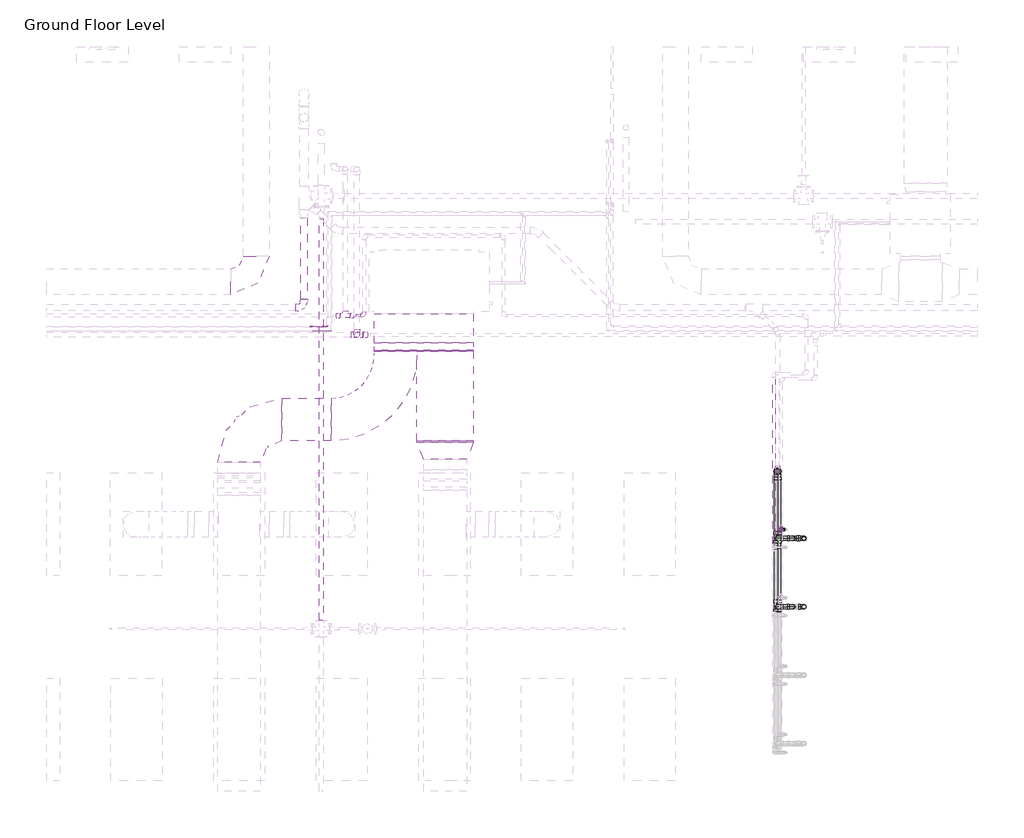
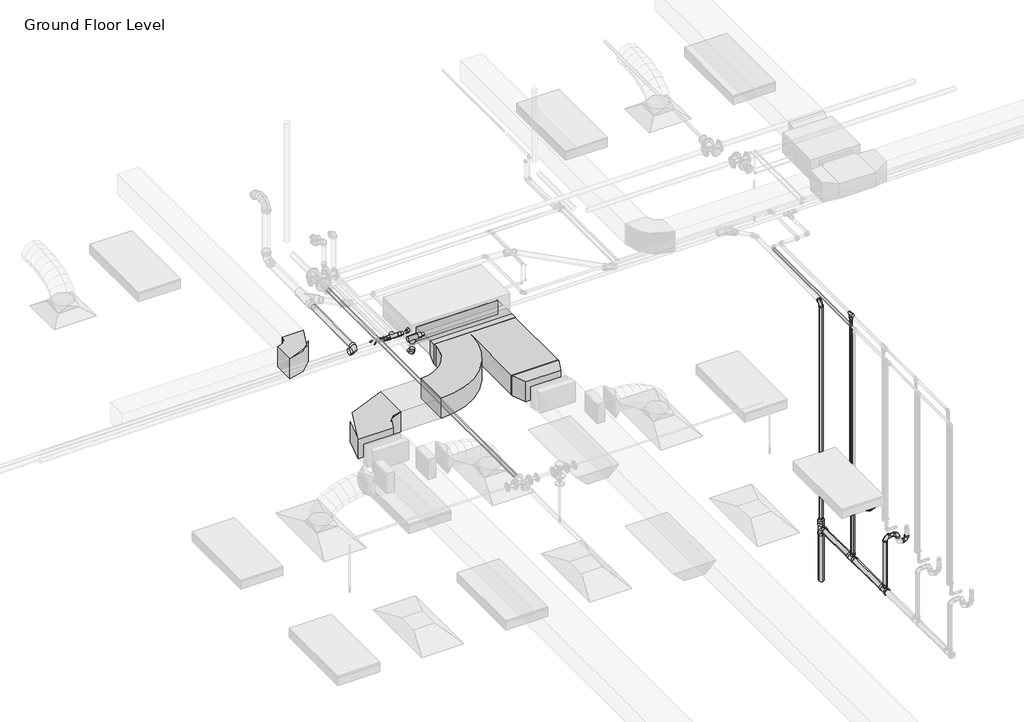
# One storey, part 51 of 74: 32 pipe fittings, 27 pipe segments, 6 duct fittings, 4 duct segments.
"""IFC4 building model written with IfcOpenShell, lengths in millimetres."""

from ifc_helpers import new_model, si_unit, point, frame, frame_2d, origin, place, context, project, spatial, polyline, circle_curve, trimmed, segment, composite_curve, outline, extrude, transform, mapped, element, save
from components import m_rectangular_elbow_radius_1_w_618da153, m_rectangular_elbow_radius_1_w_abe20169, m_rectangular_transition_angle_45_degree_0ac038db, m_rectangular_transition_angle_45_degree_2e6f116c, m_rectangular_transition_angle_45_degree_bb273bf1, m_rectangular_wye_smooth_radius_standard_737174da, m_bend_pvc_sch_40_dwv_standard_1e7bdcc1, m_bend_pvc_sch_40_dwv_standard_738aab8b, m_bend_pvc_sch_40_dwv_standard_33e831c1, m_elbow_generic_standard_a088f956, m_elbow_generic_standard_2a704253, m_elbow_generic_standard_65e6739a, m_reducer_pvc_sch_40_dwv_standard_d6f2da47, m_tee_reducing_sanitary_pvc_sch_40_dwv_standard_21d2848c, m_tee_reducing_sanitary_pvc_sch_40_dwv_standard_b574f8c1, standard_b266ab3f, standard_517a5a8d, standard_72b35c3b, standard_cd25fed3, standard_5079833c, standard_bbae78af, standard_a995ec02, standard_e5aa6446, standard_57727813, standard_77f9104c

model = new_model("IFC4")

# Units and contexts
model_context = context("Model", 3, world=origin())
ifc_project = project(units=[si_unit("LENGTHUNIT", "METRE", prefix="MILLI")], contexts=[model_context])

# Site, building, storey
site = spatial("IfcSite", under=ifc_project)
building = spatial("IfcBuilding", under=site)
storey = spatial("IfcBuildingStorey", under=building, Name="Ground Floor Level", Elevation=900.0)

# Duct fittings
placement = place(None, origin())
m_rectangular_elbow_radius_1_w_shape = m_rectangular_elbow_radius_1_w_618da153(model_context)
element("IfcDuctFitting", 1, ObjectType="M_Rectangular Elbow - Radius : 1 W", at=placement, inside=storey, context=model_context, shape_type="MappedRepresentation", body=[
    mapped(m_rectangular_elbow_radius_1_w_shape, transform((-6737.2327605, 14069.8153534, 4075.2872564), x_axis=(1.0, 0.0, 0.0), y_axis=(0.0, 1.0, 0.0), z_axis=(0.0, 0.0, 1.0))),
])
m_rectangular_elbow_radius_1_w_2_shape = m_rectangular_elbow_radius_1_w_abe20169(model_context)
element("IfcDuctFitting", 2, ObjectType="M_Rectangular Elbow - Radius : 1 W", at=placement, inside=storey, context=model_context, shape_type="MappedRepresentation", body=[
    mapped(m_rectangular_elbow_radius_1_w_2_shape, transform((-6939.6912607, 12459.4153535, 4107.1399598), x_axis=(-0.9999999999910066, 0.0, 4.2410714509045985e-06), y_axis=(0.0, -1.0, 0.0), z_axis=(4.2410714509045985e-06, 0.0, 0.9999999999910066))),
])
m_rectangular_transition_angle_45_degree_shape = m_rectangular_transition_angle_45_degree_0ac038db(model_context)
element("IfcDuctFitting", 3, ObjectType="M_Rectangular Transition - Angle : 45 Degree", at=placement, inside=storey, context=model_context, shape_type="MappedRepresentation", body=[
    mapped(m_rectangular_transition_angle_45_degree_shape, transform((-4528.6910789, 12192.414605, 4107.133239), x_axis=(0.0, -0.9999999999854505, 5.394345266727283e-06), y_axis=(1.0, 0.0, 0.0), z_axis=(0.0, 5.394345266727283e-06, 0.9999999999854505))),
])
m_rectangular_transition_angle_45_degree_2_shape = m_rectangular_transition_angle_45_degree_2e6f116c(model_context)
element("IfcDuctFitting", 4, ObjectType="M_Rectangular Transition - Angle : 45 Degree", at=placement, inside=storey, context=model_context, shape_type="MappedRepresentation", body=[
    mapped(m_rectangular_transition_angle_45_degree_2_shape, transform((-4778.6910789, 13694.4153534, 4150.0050223), x_axis=(0.0, -1.0, 0.0), y_axis=(1.0, 0.0, 0.0), z_axis=(0.0, 0.0, 1.0))),
])
m_rectangular_transition_angle_45_degree_3_shape = m_rectangular_transition_angle_45_degree_bb273bf1(model_context)
element("IfcDuctFitting", 5, ObjectType="M_Rectangular Transition - Angle : 45 Degree", at=placement, inside=storey, context=model_context, shape_type="MappedRepresentation", body=[
    mapped(m_rectangular_transition_angle_45_degree_3_shape, transform((-4778.6910789, 13354.5699657, 4150.0028095), x_axis=(0.0, -0.9999999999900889, -4.452214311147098e-06), y_axis=(1.0, 0.0, 0.0), z_axis=(0.0, -4.452214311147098e-06, 0.9999999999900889))),
])
m_rectangular_wye_smooth_radius_standard_shape = m_rectangular_wye_smooth_radius_standard_737174da(model_context)
element("IfcDuctFitting", 6, ObjectType="M_Rectangular Wye - Smooth Radius : Standard", at=placement, inside=storey, context=model_context, shape_type="MappedRepresentation", body=[
    mapped(m_rectangular_wye_smooth_radius_standard_shape, transform((-4653.6910789, 12459.4153535, 4107.1353795), x_axis=(0.0, -0.9999999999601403, -8.928571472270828e-06), y_axis=(1.0, 0.0, 0.0), z_axis=(0.0, -8.928571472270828e-06, 0.9999999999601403))),
])

# Duct segments
element("IfcDuctSegment", 7, ObjectType="Radius Elbows / Taps", at=placement, inside=storey, context=model_context, shape_type="SweptSolid", body=[
    extrude(outline(polyline([(-4859.6910789, 12209.4153535), (-4197.6910789, 12209.4153535), (-4197.6910789, 12192.414605), (-4859.6910789, 12192.414605), (-4859.6910789, 12209.4153535)])), frame((0.0, 0.0, 3957.1331473), z_axis=(0.0, 0.0, 1.0), x_axis=(1.0, 0.0, 0.0)), (0.0, 0.0, 1.0), 300.0),
])
element("IfcDuctSegment", 8, ObjectType="Radius Elbows / Taps", at=placement, inside=storey, context=model_context, shape_type="SweptSolid", body=[
    extrude(outline(polyline([(-5859.6910789, 12709.4153535), (-5859.6910789, 12209.4153535), (-6439.6912607, 12209.4153535), (-6439.6912607, 12709.4153535), (-5859.6910789, 12709.4153535)])), frame((0.0, 0.0, 3957.1353795), z_axis=(0.0, 0.0, 1.0), x_axis=(1.0, 0.0, 0.0)), (0.0, 0.0, 1.0), 300.0),
])
element("IfcDuctSegment", 9, ObjectType="Radius Elbows / Taps", at=placement, inside=storey, context=model_context, shape_type="SweptSolid", body=[
    extrude(outline(polyline([(-5359.6910789, 13694.083399), (-4197.6910789, 13694.083399), (-4197.6910789, 13354.5699657), (-5359.6910789, 13354.5699657), (-5359.6910789, 13694.083399)])), frame((0.0, 0.0, 4043.0050223), z_axis=(0.0, 0.0, 1.0), x_axis=(1.0, 0.0, 0.0)), (0.0, 0.0, 1.0), 214.0),
])
element("IfcDuctSegment", 10, ObjectType="Radius Elbows / Taps", at=placement, inside=storey, context=model_context, shape_type="SweptSolid", body=[
    extrude(outline(polyline([(0.0, -1162.0), (0.0, 0.0), (9.0109299, 0.0), (9.0109299, -1162.0), (0.0, -1162.0)])), frame((-5359.6910789, 13259.4862791, 3957.1425391), z_axis=(0.0, -0.00047283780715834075, 0.9999998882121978), x_axis=(0.0, 0.9999998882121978, 0.00047283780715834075)), (0.0, 0.0, 1.0), 300.0),
])

# Pipe fittings
m_bend_pvc_sch_40_dwv_standard_shape = m_bend_pvc_sch_40_dwv_standard_1e7bdcc1(model_context)
element("IfcPipeFitting", 11, ObjectType="M_Bend - PVC - Sch 40 - DWV : Standard", at=placement, inside=storey, context=model_context, shape_type="MappedRepresentation", body=[
    mapped(m_bend_pvc_sch_40_dwv_standard_shape, transform((-642.2357232, 11855.5503966, 4093.773994), x_axis=(0.0, 0.0, 1.0), y_axis=(0.0, 1.0, 0.0), z_axis=(-1.0, 0.0, 0.0))),
])
m_bend_pvc_sch_40_dwv_standard_2_shape = m_bend_pvc_sch_40_dwv_standard_738aab8b(model_context)
element("IfcPipeFitting", 12, ObjectType="M_Bend - PVC - Sch 40 - DWV : Standard", at=placement, inside=storey, context=model_context, shape_type="MappedRepresentation", body=[
    mapped(m_bend_pvc_sch_40_dwv_standard_2_shape, transform((-463.6645494, 10271.1979139, 1510.0), x_axis=(0.0, 0.0, 1.0), y_axis=(-1.0, 0.0, 0.0), z_axis=(0.0, -1.0, 0.0))),
])
element("IfcPipeFitting", 13, ObjectType="M_Bend - PVC - Sch 40 - DWV : Standard", at=placement, inside=storey, context=model_context, shape_type="MappedRepresentation", body=[
    mapped(m_bend_pvc_sch_40_dwv_standard_2_shape, transform((-463.6645494, 11071.1979139, 1370.0), x_axis=(-1.0, 0.0, 0.0), y_axis=(0.0, 0.0, 1.0), z_axis=(0.0, 1.0, 0.0))),
])
element("IfcPipeFitting", 14, ObjectType="M_Bend - PVC - Sch 40 - DWV : Standard", at=placement, inside=storey, context=model_context, shape_type="MappedRepresentation", body=[
    mapped(m_bend_pvc_sch_40_dwv_standard_2_shape, transform((-463.6645494, 11071.1979139, 1510.0), x_axis=(0.0, 0.0, 1.0), y_axis=(-1.0, 0.0, 0.0), z_axis=(0.0, -1.0, 0.0))),
])
element("IfcPipeFitting", 15, ObjectType="M_Bend - PVC - Sch 40 - DWV : Standard", at=placement, inside=storey, context=model_context, shape_type="MappedRepresentation", body=[
    mapped(m_bend_pvc_sch_40_dwv_standard_2_shape, transform((-333.6645494, 10271.1979139, 1370.0), x_axis=(1.0, 0.0, 0.0), y_axis=(0.0, 0.0, 1.0), z_axis=(0.0, -1.0, 0.0))),
])
element("IfcPipeFitting", 16, ObjectType="M_Bend - PVC - Sch 40 - DWV : Standard", at=placement, inside=storey, context=model_context, shape_type="MappedRepresentation", body=[
    mapped(m_bend_pvc_sch_40_dwv_standard_2_shape, transform((-333.6645494, 11071.1979139, 1370.0), x_axis=(1.0, 0.0, 0.0), y_axis=(0.0, 0.0, 1.0), z_axis=(0.0, -1.0, 0.0))),
])
element("IfcPipeFitting", 17, ObjectType="M_Bend - PVC - Sch 40 - DWV : Standard", at=placement, inside=storey, context=model_context, shape_type="MappedRepresentation", body=[
    mapped(m_bend_pvc_sch_40_dwv_standard_2_shape, transform((-642.2301761, 10271.1979139, 1510.0), x_axis=(-1.0, 0.0, 0.0), y_axis=(0.0, 0.0, -1.0), z_axis=(0.0, -1.0, 0.0))),
])
element("IfcPipeFitting", 18, ObjectType="M_Bend - PVC - Sch 40 - DWV : Standard", at=placement, inside=storey, context=model_context, shape_type="MappedRepresentation", body=[
    mapped(m_bend_pvc_sch_40_dwv_standard_2_shape, transform((-642.2301761, 11071.1979139, 1510.0), x_axis=(-1.0, 0.0, 0.0), y_axis=(0.0, 0.0, -1.0), z_axis=(0.0, -1.0, 0.0))),
])
m_bend_pvc_sch_40_dwv_standard_3_shape = m_bend_pvc_sch_40_dwv_standard_33e831c1(model_context)
element("IfcPipeFitting", 19, ObjectType="M_Bend - PVC - Sch 40 - DWV : Standard", at=placement, inside=storey, context=model_context, shape_type="MappedRepresentation", body=[
    mapped(m_bend_pvc_sch_40_dwv_standard_3_shape, transform((-6179.174125, 13768.8048932, 4156.9282537), x_axis=(0.9999500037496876, 0.0, 0.00999950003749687), y_axis=(-9.998500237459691e-05, 0.999950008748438, 0.009998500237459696), z_axis=(-0.009999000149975, -0.009999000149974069, 0.9999000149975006))),
])
m_elbow_generic_standard_shape = m_elbow_generic_standard_a088f956(model_context)
element("IfcPipeFitting", 20, ObjectType="M_Elbow - Generic : Standard", at=placement, inside=storey, context=model_context, shape_type="MappedRepresentation", body=[
    mapped(m_elbow_generic_standard_shape, transform((-5907.05663, 13545.2153534, 4380.0), x_axis=(1.0, 0.0, 0.0), y_axis=(0.0, 1.0, 0.0), z_axis=(0.0, 0.0, 1.0))),
])
m_elbow_generic_standard_2_shape = m_elbow_generic_standard_2a704253(model_context)
element("IfcPipeFitting", 21, ObjectType="M_Elbow - Generic : Standard", at=placement, inside=storey, context=model_context, shape_type="MappedRepresentation", body=[
    mapped(m_elbow_generic_standard_2_shape, transform((-5859.8931643, 13494.0185138, 4393.0), x_axis=(1.0, 0.0, 0.0), y_axis=(0.0, 0.0, -1.0), z_axis=(0.0, 1.0, 0.0))),
])
element("IfcPipeFitting", 22, ObjectType="M_Elbow - Generic : Standard", at=placement, inside=storey, context=model_context, shape_type="MappedRepresentation", body=[
    mapped(m_elbow_generic_standard_2_shape, transform((-5859.8931643, 13494.0185138, 4365.0), x_axis=(0.0, -1.0, 0.0), y_axis=(0.0, 0.0, 1.0), z_axis=(-1.0, 0.0, 0.0))),
])
element("IfcPipeFitting", 23, ObjectType="M_Elbow - Generic : Standard", at=placement, inside=storey, context=model_context, shape_type="MappedRepresentation", body=[
    mapped(m_elbow_generic_standard_2_shape, transform((-6064.340603, 13494.0185138, 4393.0), x_axis=(-1.0, 0.0, 0.0), y_axis=(0.0, 0.0, -1.0), z_axis=(0.0, -1.0, 0.0))),
])
element("IfcPipeFitting", 24, ObjectType="M_Elbow - Generic : Standard", at=placement, inside=storey, context=model_context, shape_type="MappedRepresentation", body=[
    mapped(m_elbow_generic_standard_2_shape, transform((-6064.340603, 13494.0185138, 4365.0), x_axis=(0.0, 0.0, -1.0), y_axis=(-1.0, 0.0, 0.0), z_axis=(0.0, 1.0, 0.0))),
])
m_elbow_generic_standard_3_shape = m_elbow_generic_standard_65e6739a(model_context)
element("IfcPipeFitting", 25, ObjectType="M_Elbow - Generic : Standard", at=placement, inside=storey, context=model_context, shape_type="MappedRepresentation", body=[
    mapped(m_elbow_generic_standard_3_shape, transform((-6100.1387432, 13545.2153534, 4380.0), x_axis=(1.0, 0.0, 0.0), y_axis=(0.0, 0.0, 1.0), z_axis=(0.0, -1.0, 0.0))),
])
element("IfcPipeFitting", 26, ObjectType="M_Elbow - Generic : Standard", at=placement, inside=storey, context=model_context, shape_type="MappedRepresentation", body=[
    mapped(m_elbow_generic_standard_3_shape, transform((-6088.1387432, 13545.2153534, 4392.0), x_axis=(-1.0, 0.0, 0.0), y_axis=(0.0, 0.0, -1.0), z_axis=(0.0, -1.0, 0.0))),
])
element("IfcPipeFitting", 27, ObjectType="M_Elbow - Generic : Standard", at=placement, inside=storey, context=model_context, shape_type="MappedRepresentation", body=[
    mapped(m_elbow_generic_standard_3_shape, transform((-5961.4046602, 13545.2153534, 4392.0), x_axis=(1.0, 0.0, 0.0), y_axis=(0.0, 0.0, -1.0), z_axis=(0.0, 1.0, 0.0))),
])
element("IfcPipeFitting", 28, ObjectType="M_Elbow - Generic : Standard", at=placement, inside=storey, context=model_context, shape_type="MappedRepresentation", body=[
    mapped(m_elbow_generic_standard_3_shape, transform((-5949.4046602, 13545.2153534, 4380.0), x_axis=(0.7071067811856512, 0.0, -0.7071067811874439), y_axis=(0.7071067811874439, 0.0, 0.7071067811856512), z_axis=(0.0, -1.0, 0.0))),
])
m_reducer_pvc_sch_40_dwv_standard_shape = m_reducer_pvc_sch_40_dwv_standard_d6f2da47(model_context)
element("IfcPipeFitting", 29, ObjectType="M_Reducer - PVC - Sch 40 - DWV : Standard", at=placement, inside=storey, context=model_context, shape_type="MappedRepresentation", body=[
    mapped(m_reducer_pvc_sch_40_dwv_standard_shape, transform((-642.2301761, 11855.5442121, 776.9463422), x_axis=(0.0, 0.0, 1.0), y_axis=(0.0, 1.0, 0.0), z_axis=(-1.0, 0.0, 0.0))),
])
m_tee_reducing_sanitary_pvc_sch_40_dwv_standard_shape = m_tee_reducing_sanitary_pvc_sch_40_dwv_standard_21d2848c(model_context)
element("IfcPipeFitting", 30, ObjectType="M_Tee Reducing Sanitary - PVC - Sch 40 - DWV : Standard", at=placement, inside=storey, context=model_context, shape_type="MappedRepresentation", body=[
    mapped(m_tee_reducing_sanitary_pvc_sch_40_dwv_standard_shape, transform((-642.2301761, 10271.1979139, 711.098886), x_axis=(0.0, -0.9999500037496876, 0.009999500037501), y_axis=(0.0, -0.009999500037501, -0.9999500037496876), z_axis=(1.0, 0.0, 0.0))),
])
element("IfcPipeFitting", 31, ObjectType="M_Tee Reducing Sanitary - PVC - Sch 40 - DWV : Standard", at=placement, inside=storey, context=model_context, shape_type="MappedRepresentation", body=[
    mapped(m_tee_reducing_sanitary_pvc_sch_40_dwv_standard_shape, transform((-642.2301761, 11071.1979139, 703.098886), x_axis=(0.0, -0.9999500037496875, 0.00999950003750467), y_axis=(0.0, -0.00999950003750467, -0.9999500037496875), z_axis=(1.0, 0.0, 0.0))),
])
m_tee_reducing_sanitary_pvc_sch_40_dwv_standard_2_shape = m_tee_reducing_sanitary_pvc_sch_40_dwv_standard_b574f8c1(model_context)
element("IfcPipeFitting", 32, ObjectType="M_Tee Reducing Sanitary - PVC - Sch 40 - DWV : Standard", at=placement, inside=storey, context=model_context, shape_type="MappedRepresentation", body=[
    mapped(m_tee_reducing_sanitary_pvc_sch_40_dwv_standard_2_shape, transform((-642.2301761, 11855.5442121, 695.255423), x_axis=(0.0, 0.0, 1.0), y_axis=(0.0, 1.0, 0.0), z_axis=(-1.0, 0.0, 0.0))),
])
standard_shape = standard_b266ab3f(model_context)
element("IfcPipeFitting", 33, ObjectType="M_Elbow - CPVC - Sch 40 : Standard", at=placement, inside=storey, context=model_context, shape_type="MappedRepresentation", body=[
    mapped(standard_shape, transform((-607.2327605, 11175.5128345, 1690.0), x_axis=(-1.0, 0.0, 0.0), y_axis=(0.0, 0.0, 1.0), z_axis=(0.0, 1.0, 0.0))),
])
standard_2_shape = standard_517a5a8d(model_context)
element("IfcPipeFitting", 34, ObjectType="M_Elbow - CPVC - Sch 40 : Standard", at=placement, inside=storey, context=model_context, shape_type="MappedRepresentation", body=[
    mapped(standard_2_shape, transform((-5476.1871015, 13675.2153534, 4250.0), x_axis=(1.0, 0.0, 0.0), y_axis=(0.0, 1.0, 0.0), z_axis=(0.0, 0.0, 1.0))),
])
standard_3_shape = standard_72b35c3b(model_context)
element("IfcPipeFitting", 35, ObjectType="M_Tee - CPVC - Sch 40 : Standard", at=placement, inside=storey, context=model_context, shape_type="MappedRepresentation", body=[
    mapped(standard_3_shape, transform((-607.2327605, 11175.5128345, 4315.0), x_axis=(0.0, -1.0, 0.0), y_axis=(0.0, 0.0, 1.0), z_axis=(-1.0, 0.0, 0.0))),
])
standard_4_shape = standard_cd25fed3(model_context)
element("IfcPipeFitting", 36, ObjectType="M_Tee - CPVC - Sch 40 : Standard", at=placement, inside=storey, context=model_context, shape_type="MappedRepresentation", body=[
    mapped(standard_4_shape, transform((-5560.8713756, 13449.9865561, 4315.0), x_axis=(1.0, 0.0, 0.0), y_axis=(0.0, 0.0, 1.0), z_axis=(0.0, -1.0, 0.0))),
])
standard_5_shape = standard_5079833c(model_context)
element("IfcPipeFitting", 37, ObjectType="M_Coupling Reducing - CPVC - Sch 40 : Standard", at=placement, inside=storey, context=model_context, shape_type="MappedRepresentation", body=[
    mapped(standard_5_shape, transform((-5486.9943636, 13449.9865561, 4315.0), x_axis=(1.0, 0.0, 0.0), y_axis=(0.0, 1.0, 0.0), z_axis=(0.0, 0.0, 1.0))),
])
standard_6_shape = standard_bbae78af(model_context)
element("IfcPipeFitting", 38, ObjectType="M_Tee - CPVC - Sch 40 : Standard", at=placement, inside=storey, context=model_context, shape_type="MappedRepresentation", body=[
    mapped(standard_6_shape, transform((-5698.3060147, 13675.2153534, 4250.0), x_axis=(1.0, 0.0, 0.0), y_axis=(0.0, -1.0, 0.0), z_axis=(0.0, 0.0, -1.0))),
])
standard_7_shape = standard_a995ec02(model_context)
element("IfcPipeFitting", 39, ObjectType="M_Coupling Reducing - CPVC - Sch 40 : Standard", at=placement, inside=storey, context=model_context, shape_type="MappedRepresentation", body=[
    mapped(standard_7_shape, transform((-5757.0562147, 13675.2153534, 4250.0), x_axis=(-1.0, 0.0, 0.0), y_axis=(0.0, -1.0, 0.0), z_axis=(0.0, 0.0, 1.0))),
])
standard_8_shape = standard_e5aa6446(model_context)
element("IfcPipeFitting", 40, ObjectType="M_Coupling Reducing - CPVC - Sch 40 : Standard", at=placement, inside=storey, context=model_context, shape_type="MappedRepresentation", body=[
    mapped(standard_8_shape, transform((-607.2327605, 11175.5128345, 4275.2998), x_axis=(0.0, 0.0, -1.0), y_axis=(1.0, 0.0, 0.0), z_axis=(0.0, -1.0, 0.0))),
])
standard_9_shape = standard_57727813(model_context)
element("IfcPipeFitting", 41, ObjectType="M_Elbow - CPVC - Sch 40 : Standard", at=placement, inside=storey, context=model_context, shape_type="MappedRepresentation", body=[
    mapped(standard_9_shape, transform((-5560.8713756, 13449.9865561, 4090.0), x_axis=(0.0, 0.0, -1.0), y_axis=(0.0, 1.0, 0.0), z_axis=(1.0, 0.0, 0.0))),
])
standard_10_shape = standard_77f9104c(model_context)
element("IfcPipeFitting", 42, ObjectType="M_Coupling Reducing - CPVC - Sch 40 : Standard", at=placement, inside=storey, context=model_context, shape_type="MappedRepresentation", body=[
    mapped(standard_10_shape, transform((-5639.5558147, 13675.2153534, 4250.0), x_axis=(1.0, 0.0, 0.0), y_axis=(0.0, 1.0, 0.0), z_axis=(0.0, 0.0, 1.0))),
])

# Pipe segments
element("IfcPipeSegment", 43, ObjectType="CPVC", at=placement, inside=storey, context=model_context, shape_type="SweptSolid", body=[
    extrude(outline(composite_curve([segment(trimmed(circle_curve(frame_2d((13449.9865561, 4315.0)), 30.1625), [point((13419.8240561, 4315.0))], [point((13449.9865561, 4345.1625))], False, "CARTESIAN"), True, "CONTINUOUS"), segment(trimmed(circle_curve(frame_2d((13449.9865561, 4315.0)), 30.1625), [point((13449.9865561, 4345.1625))], [point((13480.1490561, 4315.0))], False, "CARTESIAN"), True, "CONTINUOUS"), segment(trimmed(circle_curve(frame_2d((13449.9865561, 4315.0)), 30.1625), [point((13480.1490561, 4315.0))], [point((13449.9865561, 4284.8375))], False, "CARTESIAN"), True, "CONTINUOUS"), segment(trimmed(circle_curve(frame_2d((13449.9865561, 4315.0)), 30.1625), [point((13449.9865561, 4284.8375))], [point((13419.8240561, 4315.0))], False, "CARTESIAN"), True, "CONTINUOUS")], self_intersect=False)), frame((-5494.1963756, 0.0, 0.0), z_axis=(1.0, 0.0, 0.0), x_axis=(0.0, 1.0, 0.0)), (0.0, 0.0, 1.0), 7.202012),
])
element("IfcPipeSegment", 44, ObjectType="CPVC", at=placement, inside=storey, context=model_context, shape_type="SweptSolid", body=[
    extrude(outline(composite_curve([segment(trimmed(circle_curve(frame_2d((11175.5128345, 1690.0)), 13.335), [point((11188.8478345, 1690.0))], [point((11175.5128345, 1676.665))], False, "CARTESIAN"), True, "CONTINUOUS"), segment(trimmed(circle_curve(frame_2d((11175.5128345, 1690.0)), 13.335), [point((11175.5128345, 1676.665))], [point((11162.1778345, 1690.0))], False, "CARTESIAN"), True, "CONTINUOUS"), segment(trimmed(circle_curve(frame_2d((11175.5128345, 1690.0)), 13.335), [point((11162.1778345, 1690.0))], [point((11175.5128345, 1703.335))], False, "CARTESIAN"), True, "CONTINUOUS"), segment(trimmed(circle_curve(frame_2d((11175.5128345, 1690.0)), 13.335), [point((11175.5128345, 1703.335))], [point((11188.8478345, 1690.0))], False, "CARTESIAN"), True, "CONTINUOUS")], self_intersect=False)), frame((-571.9077105, 0.0, 0.0), z_axis=(1.0, 0.0, 0.0), x_axis=(0.0, 1.0, 0.0)), (0.0, 0.0, 1.0), 14.67495),
])
element("IfcPipeSegment", 45, ObjectType="CPVC", at=placement, inside=storey, context=model_context, shape_type="SweptSolid", body=[
    extrude(outline(composite_curve([segment(trimmed(circle_curve(frame_2d((-607.2327605, 11175.5128345)), 13.335), [point((-620.5677605, 11175.5128345))], [point((-607.2327605, 11188.8478345))], False, "CARTESIAN"), True, "CONTINUOUS"), segment(trimmed(circle_curve(frame_2d((-607.2327605, 11175.5128345)), 13.335), [point((-607.2327605, 11188.8478345))], [point((-593.8977605, 11175.5128345))], False, "CARTESIAN"), True, "CONTINUOUS"), segment(trimmed(circle_curve(frame_2d((-607.2327605, 11175.5128345)), 13.335), [point((-593.8977605, 11175.5128345))], [point((-607.2327605, 11162.1778345))], False, "CARTESIAN"), True, "CONTINUOUS"), segment(trimmed(circle_curve(frame_2d((-607.2327605, 11175.5128345)), 13.335), [point((-607.2327605, 11162.1778345))], [point((-620.5677605, 11175.5128345))], False, "CARTESIAN"), True, "CONTINUOUS")], self_intersect=False)), frame((0.0, 0.0, 1725.32505), z_axis=(0.0, 0.0, 1.0), x_axis=(1.0, 0.0, 0.0)), (0.0, 0.0, 1.0), 2492.82475),
])
element("IfcPipeSegment", 46, ObjectType="CPVC", at=placement, inside=storey, context=model_context, shape_type="SweptSolid", body=[
    extrude(outline(composite_curve([segment(trimmed(circle_curve(frame_2d((4250.0, -684.0671674)), 16.7005), [point((4250.0, -667.3666674))], [point((4266.7005, -684.0671674))], False, "CARTESIAN"), True, "CONTINUOUS"), segment(trimmed(circle_curve(frame_2d((4250.0, -684.0671674)), 16.7005), [point((4266.7005, -684.0671674))], [point((4250.0, -700.7676674))], False, "CARTESIAN"), True, "CONTINUOUS"), segment(trimmed(circle_curve(frame_2d((4250.0, -684.0671674)), 16.7005), [point((4250.0, -700.7676674))], [point((4233.2995, -684.0671674))], False, "CARTESIAN"), True, "CONTINUOUS"), segment(trimmed(circle_curve(frame_2d((4250.0, -684.0671674)), 16.7005), [point((4233.2995, -684.0671674))], [point((4250.0, -667.3666674))], False, "CARTESIAN"), True, "CONTINUOUS")], self_intersect=False)), frame((0.0, 11006.5831933, 0.0), z_axis=(0.0, 1.0, 0.0), x_axis=(0.0, 0.0, 1.0)), (0.0, 0.0, 1.0), 1945.3696101),
])
element("IfcPipeSegment", 47, ObjectType="CPVC", at=placement, inside=storey, context=model_context, shape_type="SweptSolid", body=[
    extrude(outline(composite_curve([segment(trimmed(circle_curve(frame_2d((13675.2153534, 4250.0)), 16.7005), [point((13658.5148534, 4250.0))], [point((13675.2153534, 4266.7005))], False, "CARTESIAN"), True, "CONTINUOUS"), segment(trimmed(circle_curve(frame_2d((13675.2153534, 4250.0)), 16.7005), [point((13675.2153534, 4266.7005))], [point((13691.9158534, 4250.0))], False, "CARTESIAN"), True, "CONTINUOUS"), segment(trimmed(circle_curve(frame_2d((13675.2153534, 4250.0)), 16.7005), [point((13691.9158534, 4250.0))], [point((13675.2153534, 4233.2995))], False, "CARTESIAN"), True, "CONTINUOUS"), segment(trimmed(circle_curve(frame_2d((13675.2153534, 4250.0)), 16.7005), [point((13675.2153534, 4233.2995))], [point((13658.5148534, 4250.0))], False, "CARTESIAN"), True, "CONTINUOUS")], self_intersect=False)), frame((-5567.3569397, 0.0, 0.0), z_axis=(1.0, 0.0, 0.0), x_axis=(0.0, 1.0, 0.0)), (0.0, 0.0, 1.0), 47.9072882),
])
element("IfcPipeSegment", 48, ObjectType="CPVC", at=placement, inside=storey, context=model_context, shape_type="SweptSolid", body=[
    extrude(outline(composite_curve([segment(trimmed(circle_curve(frame_2d((-5560.8713756, 13449.9865561)), 30.1625), [point((-5530.7088756, 13449.9865561))], [point((-5560.8713756, 13419.8240561))], False, "CARTESIAN"), True, "CONTINUOUS"), segment(trimmed(circle_curve(frame_2d((-5560.8713756, 13449.9865561)), 30.1625), [point((-5560.8713756, 13419.8240561))], [point((-5591.0338756, 13449.9865561))], False, "CARTESIAN"), True, "CONTINUOUS"), segment(trimmed(circle_curve(frame_2d((-5560.8713756, 13449.9865561)), 30.1625), [point((-5591.0338756, 13449.9865561))], [point((-5560.8713756, 13480.1490561))], False, "CARTESIAN"), True, "CONTINUOUS"), segment(trimmed(circle_curve(frame_2d((-5560.8713756, 13449.9865561)), 30.1625), [point((-5560.8713756, 13480.1490561))], [point((-5530.7088756, 13449.9865561))], False, "CARTESIAN"), True, "CONTINUOUS")], self_intersect=False)), frame((0.0, 0.0, 4154.29375), z_axis=(0.0, 0.0, 1.0), x_axis=(1.0, 0.0, 0.0)), (0.0, 0.0, 1.0), 94.03125),
])
element("IfcPipeSegment", 49, ObjectType="Copper", at=placement, inside=storey, context=model_context, shape_type="SweptSolid", body=[
    extrude(outline(composite_curve([segment(trimmed(circle_curve(frame_2d((13545.2153534, 4392.0)), 6.5), [point((13538.7153534, 4392.0))], [point((13545.2153534, 4398.5))], False, "CARTESIAN"), True, "CONTINUOUS"), segment(trimmed(circle_curve(frame_2d((13545.2153534, 4392.0)), 6.5), [point((13545.2153534, 4398.5))], [point((13551.7153534, 4392.0))], False, "CARTESIAN"), True, "CONTINUOUS"), segment(trimmed(circle_curve(frame_2d((13545.2153534, 4392.0)), 6.5), [point((13551.7153534, 4392.0))], [point((13545.2153534, 4385.5))], False, "CARTESIAN"), True, "CONTINUOUS"), segment(trimmed(circle_curve(frame_2d((13545.2153534, 4392.0)), 6.5), [point((13545.2153534, 4385.5))], [point((13538.7153534, 4392.0))], False, "CARTESIAN"), True, "CONTINUOUS")], self_intersect=False)), frame((-6082.220667, 0.0, 0.0), z_axis=(1.0, 0.0, 0.0), x_axis=(0.0, 1.0, 0.0)), (0.0, 0.0, 1.0), 114.8979305),
])
element("IfcPipeSegment", 50, ObjectType="Copper", at=placement, inside=storey, context=model_context, shape_type="SweptSolid", body=[
    extrude(outline(composite_curve([segment(trimmed(circle_curve(frame_2d((13494.0185138, 4393.0)), 3.35), [point((13490.6685138, 4393.0))], [point((13494.0185138, 4396.35))], False, "CARTESIAN"), True, "CONTINUOUS"), segment(trimmed(circle_curve(frame_2d((13494.0185138, 4393.0)), 3.35), [point((13494.0185138, 4396.35))], [point((13497.3685138, 4393.0))], False, "CARTESIAN"), True, "CONTINUOUS"), segment(trimmed(circle_curve(frame_2d((13494.0185138, 4393.0)), 3.35), [point((13497.3685138, 4393.0))], [point((13494.0185138, 4389.65))], False, "CARTESIAN"), True, "CONTINUOUS"), segment(trimmed(circle_curve(frame_2d((13494.0185138, 4393.0)), 3.35), [point((13494.0185138, 4389.65))], [point((13490.6685138, 4393.0))], False, "CARTESIAN"), True, "CONTINUOUS")], self_intersect=False)), frame((-6053.203103, 0.0, 0.0), z_axis=(1.0, 0.0, 0.0), x_axis=(0.0, 1.0, 0.0)), (0.0, 0.0, 1.0), 182.1724387),
])
element("IfcPipeSegment", 51, ObjectType="Copper", at=placement, inside=storey, context=model_context, shape_type="SweptSolid", body=[
    extrude(outline(composite_curve([segment(trimmed(circle_curve(frame_2d((-5859.8931643, 13494.0185138)), 3.35), [point((-5856.5431643, 13494.0185138))], [point((-5859.8931643, 13490.6685138))], False, "CARTESIAN"), True, "CONTINUOUS"), segment(trimmed(circle_curve(frame_2d((-5859.8931643, 13494.0185138)), 3.35), [point((-5859.8931643, 13490.6685138))], [point((-5863.2431643, 13494.0185138))], False, "CARTESIAN"), True, "CONTINUOUS"), segment(trimmed(circle_curve(frame_2d((-5859.8931643, 13494.0185138)), 3.35), [point((-5863.2431643, 13494.0185138))], [point((-5859.8931643, 13497.3685138))], False, "CARTESIAN"), True, "CONTINUOUS"), segment(trimmed(circle_curve(frame_2d((-5859.8931643, 13494.0185138)), 3.35), [point((-5859.8931643, 13497.3685138))], [point((-5856.5431643, 13494.0185138))], False, "CARTESIAN"), True, "CONTINUOUS")], self_intersect=False)), frame((0.0, 0.0, 4376.1375), z_axis=(0.0, 0.0, 1.0), x_axis=(1.0, 0.0, 0.0)), (0.0, 0.0, 1.0), 5.725),
])
element("IfcPipeSegment", 52, ObjectType="Copper", at=placement, inside=storey, context=model_context, shape_type="SweptSolid", body=[
    extrude(outline(composite_curve([segment(trimmed(circle_curve(frame_2d((-6064.340603, 13494.0185138)), 3.35), [point((-6060.990603, 13494.0185138))], [point((-6064.340603, 13490.6685138))], False, "CARTESIAN"), True, "CONTINUOUS"), segment(trimmed(circle_curve(frame_2d((-6064.340603, 13494.0185138)), 3.35), [point((-6064.340603, 13490.6685138))], [point((-6067.690603, 13494.0185138))], False, "CARTESIAN"), True, "CONTINUOUS"), segment(trimmed(circle_curve(frame_2d((-6064.340603, 13494.0185138)), 3.35), [point((-6067.690603, 13494.0185138))], [point((-6064.340603, 13497.3685138))], False, "CARTESIAN"), True, "CONTINUOUS"), segment(trimmed(circle_curve(frame_2d((-6064.340603, 13494.0185138)), 3.35), [point((-6064.340603, 13497.3685138))], [point((-6060.990603, 13494.0185138))], False, "CARTESIAN"), True, "CONTINUOUS")], self_intersect=False)), frame((0.0, 0.0, 4376.1375), z_axis=(0.0, 0.0, 1.0), x_axis=(1.0, 0.0, 0.0)), (0.0, 0.0, 1.0), 5.725),
])
element("IfcPipeSegment", 53, ObjectType="Copper", at=placement, inside=storey, context=model_context, shape_type="SweptSolid", body=[
    extrude(outline(composite_curve([segment(trimmed(circle_curve(frame_2d((0.0, 6.5)), 6.5), [point((0.0, 0.0))], [point((-6.5, 6.5))], False, "CARTESIAN"), True, "CONTINUOUS"), segment(trimmed(circle_curve(frame_2d((0.0, 6.5)), 6.5), [point((-6.5, 6.5))], [point((0.0, 13.0))], False, "CARTESIAN"), True, "CONTINUOUS"), segment(trimmed(circle_curve(frame_2d((0.0, 6.5)), 6.5), [point((0.0, 13.0))], [point((6.5, 6.5))], False, "CARTESIAN"), True, "CONTINUOUS"), segment(trimmed(circle_curve(frame_2d((0.0, 6.5)), 6.5), [point((6.5, 6.5))], [point((0.0, 0.0))], False, "CARTESIAN"), True, "CONTINUOUS")], self_intersect=False)), frame((-6095.9540314, 13538.7153534, 4384.1847119), z_axis=(0.7071067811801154, 0.0, 0.7071067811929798), x_axis=(0.7071067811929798, 0.0, -0.7071067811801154)), (0.0, 0.0, 1.0), 5.1344102),
])
element("IfcPipeSegment", 54, ObjectType="Copper", at=placement, inside=storey, context=model_context, shape_type="SweptSolid", body=[
    extrude(outline(composite_curve([segment(trimmed(circle_curve(frame_2d((0.0, -6.5)), 6.5), [point((0.0, -13.0))], [point((-6.5, -6.5))], False, "CARTESIAN"), True, "CONTINUOUS"), segment(trimmed(circle_curve(frame_2d((0.0, -6.5)), 6.5), [point((-6.5, -6.5))], [point((0.0, 0.0))], False, "CARTESIAN"), True, "CONTINUOUS"), segment(trimmed(circle_curve(frame_2d((0.0, -6.5)), 6.5), [point((0.0, 0.0))], [point((6.5, -6.5))], False, "CARTESIAN"), True, "CONTINUOUS"), segment(trimmed(circle_curve(frame_2d((0.0, -6.5)), 6.5), [point((6.5, -6.5))], [point((0.0, -13.0))], False, "CARTESIAN"), True, "CONTINUOUS")], self_intersect=False)), frame((-5953.5893721, 13551.7153534, 4384.1847119), z_axis=(-0.7071067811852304, 0.0, 0.7071067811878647), x_axis=(0.7071067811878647, 0.0, 0.7071067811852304)), (0.0, 0.0, 1.0), 5.1344102),
])
element("IfcPipeSegment", 55, ObjectType="Copper", at=placement, inside=storey, context=model_context, shape_type="SweptSolid", body=[
    extrude(outline(composite_curve([segment(trimmed(circle_curve(frame_2d((13545.2153534, 4380.0)), 6.5), [point((13551.7153534, 4380.0))], [point((13545.2153534, 4373.5))], False, "CARTESIAN"), True, "CONTINUOUS"), segment(trimmed(circle_curve(frame_2d((13545.2153534, 4380.0)), 6.5), [point((13545.2153534, 4373.5))], [point((13538.7153534, 4380.0))], False, "CARTESIAN"), True, "CONTINUOUS"), segment(trimmed(circle_curve(frame_2d((13545.2153534, 4380.0)), 6.5), [point((13538.7153534, 4380.0))], [point((13545.2153534, 4386.5))], False, "CARTESIAN"), True, "CONTINUOUS"), segment(trimmed(circle_curve(frame_2d((13545.2153534, 4380.0)), 6.5), [point((13545.2153534, 4386.5))], [point((13551.7153534, 4380.0))], False, "CARTESIAN"), True, "CONTINUOUS")], self_intersect=False)), frame((-5943.4865839, 0.0, 0.0), z_axis=(1.0, 0.0, 0.0), x_axis=(0.0, 1.0, 0.0)), (0.0, 0.0, 1.0), 22.1424539),
])
element("IfcPipeSegment", 56, ObjectType="PVC - DWV", at=placement, inside=storey, context=model_context, shape_type="SweptSolid", body=[
    extrude(outline(composite_curve([segment(trimmed(circle_curve(frame_2d((0.0, -36.5125)), 36.5125), [point((36.5125, -36.5125))], [point((0.0, -73.025))], False, "CARTESIAN"), True, "CONTINUOUS"), segment(trimmed(circle_curve(frame_2d((0.0, -36.5125)), 36.5125), [point((0.0, -73.025))], [point((-36.5125, -36.5125))], False, "CARTESIAN"), True, "CONTINUOUS"), segment(trimmed(circle_curve(frame_2d((0.0, -36.5125)), 36.5125), [point((-36.5125, -36.5125))], [point((0.0, 0.0))], False, "CARTESIAN"), True, "CONTINUOUS"), segment(trimmed(circle_curve(frame_2d((0.0, -36.5125)), 36.5125), [point((0.0, 0.0))], [point((36.5125, -36.5125))], False, "CARTESIAN"), True, "CONTINUOUS")], self_intersect=False)), frame((-642.2301761, 11755.9463482, 732.7657272), z_axis=(0.0, -0.9999500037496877, 0.009999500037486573), x_axis=(1.0, 0.0, 0.0)), (0.0, 0.0, 1.0), 605.3544271),
])
element("IfcPipeSegment", 57, ObjectType="PVC - DWV", at=placement, inside=storey, context=model_context, shape_type="SweptSolid", body=[
    extrude(outline(composite_curve([segment(trimmed(circle_curve(frame_2d((10271.1979139, 1510.0)), 24.13), [point((10295.3279139, 1510.0))], [point((10271.1979139, 1485.87))], False, "CARTESIAN"), True, "CONTINUOUS"), segment(trimmed(circle_curve(frame_2d((10271.1979139, 1510.0)), 24.13), [point((10271.1979139, 1485.87))], [point((10247.0679139, 1510.0))], False, "CARTESIAN"), True, "CONTINUOUS"), segment(trimmed(circle_curve(frame_2d((10271.1979139, 1510.0)), 24.13), [point((10247.0679139, 1510.0))], [point((10271.1979139, 1534.13))], False, "CARTESIAN"), True, "CONTINUOUS"), segment(trimmed(circle_curve(frame_2d((10271.1979139, 1510.0)), 24.13), [point((10271.1979139, 1534.13))], [point((10295.3279139, 1510.0))], False, "CARTESIAN"), True, "CONTINUOUS")], self_intersect=False)), frame((-580.3303761, 0.0, 0.0), z_axis=(1.0, 0.0, 0.0), x_axis=(0.0, 1.0, 0.0)), (0.0, 0.0, 1.0), 54.7660268),
])
element("IfcPipeSegment", 58, ObjectType="PVC - DWV", at=placement, inside=storey, context=model_context, shape_type="SweptSolid", body=[
    extrude(outline(composite_curve([segment(trimmed(circle_curve(frame_2d((-642.2301761, 10271.1979139)), 24.13), [point((-666.3601761, 10271.1979139))], [point((-642.2301761, 10295.3279139))], False, "CARTESIAN"), True, "CONTINUOUS"), segment(trimmed(circle_curve(frame_2d((-642.2301761, 10271.1979139)), 24.13), [point((-642.2301761, 10295.3279139))], [point((-618.1001761, 10271.1979139))], False, "CARTESIAN"), True, "CONTINUOUS"), segment(trimmed(circle_curve(frame_2d((-642.2301761, 10271.1979139)), 24.13), [point((-618.1001761, 10271.1979139))], [point((-642.2301761, 10247.0679139))], False, "CARTESIAN"), True, "CONTINUOUS"), segment(trimmed(circle_curve(frame_2d((-642.2301761, 10271.1979139)), 24.13), [point((-642.2301761, 10247.0679139))], [point((-666.3601761, 10271.1979139))], False, "CARTESIAN"), True, "CONTINUOUS")], self_intersect=False)), frame((0.0, 0.0, 791.9463422), z_axis=(0.0, 0.0, 1.0), x_axis=(1.0, 0.0, 0.0)), (0.0, 0.0, 1.0), 656.1538578),
])
element("IfcPipeSegment", 59, ObjectType="PVC - DWV", at=placement, inside=storey, context=model_context, shape_type="SweptSolid", body=[
    extrude(outline(composite_curve([segment(trimmed(circle_curve(frame_2d((-333.6645494, 11071.1979139)), 24.13), [point((-309.5345494, 11071.1979139))], [point((-333.6645494, 11047.0679139))], False, "CARTESIAN"), True, "CONTINUOUS"), segment(trimmed(circle_curve(frame_2d((-333.6645494, 11071.1979139)), 24.13), [point((-333.6645494, 11047.0679139))], [point((-357.7945494, 11071.1979139))], False, "CARTESIAN"), True, "CONTINUOUS"), segment(trimmed(circle_curve(frame_2d((-333.6645494, 11071.1979139)), 24.13), [point((-357.7945494, 11071.1979139))], [point((-333.6645494, 11095.3279139))], False, "CARTESIAN"), True, "CONTINUOUS"), segment(trimmed(circle_curve(frame_2d((-333.6645494, 11071.1979139)), 24.13), [point((-333.6645494, 11095.3279139))], [point((-309.5345494, 11071.1979139))], False, "CARTESIAN"), True, "CONTINUOUS")], self_intersect=False)), frame((0.0, 0.0, 1431.8998), z_axis=(0.0, 0.0, 1.0), x_axis=(1.0, 0.0, 0.0)), (0.0, 0.0, 1.0), 118.1002),
])
element("IfcPipeSegment", 60, ObjectType="PVC - DWV", at=placement, inside=storey, context=model_context, shape_type="SweptSolid", body=[
    extrude(outline(composite_curve([segment(trimmed(circle_curve(frame_2d((11071.1979139, 1370.0)), 24.13), [point((11095.3279139, 1370.0))], [point((11071.1979139, 1345.87))], False, "CARTESIAN"), True, "CONTINUOUS"), segment(trimmed(circle_curve(frame_2d((11071.1979139, 1370.0)), 24.13), [point((11071.1979139, 1345.87))], [point((11047.0679139, 1370.0))], False, "CARTESIAN"), True, "CONTINUOUS"), segment(trimmed(circle_curve(frame_2d((11071.1979139, 1370.0)), 24.13), [point((11047.0679139, 1370.0))], [point((11071.1979139, 1394.13))], False, "CARTESIAN"), True, "CONTINUOUS"), segment(trimmed(circle_curve(frame_2d((11071.1979139, 1370.0)), 24.13), [point((11071.1979139, 1394.13))], [point((11095.3279139, 1370.0))], False, "CARTESIAN"), True, "CONTINUOUS")], self_intersect=False)), frame((-401.7647494, 0.0, 0.0), z_axis=(1.0, 0.0, 0.0), x_axis=(0.0, 1.0, 0.0)), (0.0, 0.0, 1.0), 6.2004),
])
element("IfcPipeSegment", 61, ObjectType="PVC - DWV", at=placement, inside=storey, context=model_context, shape_type="SweptSolid", body=[
    extrude(outline(composite_curve([segment(trimmed(circle_curve(frame_2d((-463.6645494, 11071.1979139)), 24.13), [point((-487.7945494, 11071.1979139))], [point((-463.6645494, 11095.3279139))], False, "CARTESIAN"), True, "CONTINUOUS"), segment(trimmed(circle_curve(frame_2d((-463.6645494, 11071.1979139)), 24.13), [point((-463.6645494, 11095.3279139))], [point((-439.5345494, 11071.1979139))], False, "CARTESIAN"), True, "CONTINUOUS"), segment(trimmed(circle_curve(frame_2d((-463.6645494, 11071.1979139)), 24.13), [point((-439.5345494, 11071.1979139))], [point((-463.6645494, 11047.0679139))], False, "CARTESIAN"), True, "CONTINUOUS"), segment(trimmed(circle_curve(frame_2d((-463.6645494, 11071.1979139)), 24.13), [point((-463.6645494, 11047.0679139))], [point((-487.7945494, 11071.1979139))], False, "CARTESIAN"), True, "CONTINUOUS")], self_intersect=False)), frame((0.0, 0.0, 1431.8998), z_axis=(0.0, 0.0, 1.0), x_axis=(1.0, 0.0, 0.0)), (0.0, 0.0, 1.0), 16.2004),
])
element("IfcPipeSegment", 62, ObjectType="PVC - DWV", at=placement, inside=storey, context=model_context, shape_type="SweptSolid", body=[
    extrude(outline(composite_curve([segment(trimmed(circle_curve(frame_2d((11071.1979139, 1510.0)), 24.13), [point((11095.3279139, 1510.0))], [point((11071.1979139, 1485.87))], False, "CARTESIAN"), True, "CONTINUOUS"), segment(trimmed(circle_curve(frame_2d((11071.1979139, 1510.0)), 24.13), [point((11071.1979139, 1485.87))], [point((11047.0679139, 1510.0))], False, "CARTESIAN"), True, "CONTINUOUS"), segment(trimmed(circle_curve(frame_2d((11071.1979139, 1510.0)), 24.13), [point((11047.0679139, 1510.0))], [point((11071.1979139, 1534.13))], False, "CARTESIAN"), True, "CONTINUOUS"), segment(trimmed(circle_curve(frame_2d((11071.1979139, 1510.0)), 24.13), [point((11071.1979139, 1534.13))], [point((11095.3279139, 1510.0))], False, "CARTESIAN"), True, "CONTINUOUS")], self_intersect=False)), frame((-580.3303761, 0.0, 0.0), z_axis=(1.0, 0.0, 0.0), x_axis=(0.0, 1.0, 0.0)), (0.0, 0.0, 1.0), 54.7660268),
])
element("IfcPipeSegment", 63, ObjectType="PVC - DWV", at=placement, inside=storey, context=model_context, shape_type="SweptSolid", body=[
    extrude(outline(composite_curve([segment(trimmed(circle_curve(frame_2d((-642.2301761, 11071.1979139)), 24.13), [point((-666.3601761, 11071.1979139))], [point((-642.2301761, 11095.3279139))], False, "CARTESIAN"), True, "CONTINUOUS"), segment(trimmed(circle_curve(frame_2d((-642.2301761, 11071.1979139)), 24.13), [point((-642.2301761, 11095.3279139))], [point((-618.1001761, 11071.1979139))], False, "CARTESIAN"), True, "CONTINUOUS"), segment(trimmed(circle_curve(frame_2d((-642.2301761, 11071.1979139)), 24.13), [point((-618.1001761, 11071.1979139))], [point((-642.2301761, 11047.0679139))], False, "CARTESIAN"), True, "CONTINUOUS"), segment(trimmed(circle_curve(frame_2d((-642.2301761, 11071.1979139)), 24.13), [point((-642.2301761, 11047.0679139))], [point((-666.3601761, 11071.1979139))], False, "CARTESIAN"), True, "CONTINUOUS")], self_intersect=False)), frame((0.0, 0.0, 783.9463422), z_axis=(0.0, 0.0, 1.0), x_axis=(1.0, 0.0, 0.0)), (0.0, 0.0, 1.0), 664.1538578),
])
element("IfcPipeSegment", 64, ObjectType="PVC - DWV", at=placement, inside=storey, context=model_context, shape_type="SweptSolid", body=[
    extrude(outline(composite_curve([segment(trimmed(circle_curve(frame_2d((0.0, -36.5125)), 36.5125), [point((36.5125, -36.5125))], [point((0.0, -73.025))], False, "CARTESIAN"), True, "CONTINUOUS"), segment(trimmed(circle_curve(frame_2d((0.0, -36.5125)), 36.5125), [point((0.0, -73.025))], [point((-36.5125, -36.5125))], False, "CARTESIAN"), True, "CONTINUOUS"), segment(trimmed(circle_curve(frame_2d((0.0, -36.5125)), 36.5125), [point((-36.5125, -36.5125))], [point((0.0, 0.0))], False, "CARTESIAN"), True, "CONTINUOUS"), segment(trimmed(circle_curve(frame_2d((0.0, -36.5125)), 36.5125), [point((0.0, 0.0))], [point((36.5125, -36.5125))], False, "CARTESIAN"), True, "CONTINUOUS")], self_intersect=False)), frame((-642.2301761, 11012.0802514, 740.2043882), z_axis=(0.0, -0.9999500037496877, 0.009999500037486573), x_axis=(1.0, 0.0, 0.0)), (0.0, 0.0, 1.0), 661.4911369),
])
element("IfcPipeSegment", 65, ObjectType="PVC - DWV", at=placement, inside=storey, context=model_context, shape_type="SweptSolid", body=[
    extrude(outline(composite_curve([segment(trimmed(circle_curve(frame_2d((-642.2301761, 11855.5442121)), 36.5125), [point((-605.7176761, 11855.5442121))], [point((-642.2301761, 11819.0317121))], False, "CARTESIAN"), True, "CONTINUOUS"), segment(trimmed(circle_curve(frame_2d((-642.2301761, 11855.5442121)), 36.5125), [point((-642.2301761, 11819.0317121))], [point((-678.7426761, 11855.5442121))], False, "CARTESIAN"), True, "CONTINUOUS"), segment(trimmed(circle_curve(frame_2d((-642.2301761, 11855.5442121)), 36.5125), [point((-678.7426761, 11855.5442121))], [point((-642.2301761, 11892.0567121))], False, "CARTESIAN"), True, "CONTINUOUS"), segment(trimmed(circle_curve(frame_2d((-642.2301761, 11855.5442121)), 36.5125), [point((-642.2301761, 11892.0567121))], [point((-605.7176761, 11855.5442121))], False, "CARTESIAN"), True, "CONTINUOUS")], self_intersect=False)), frame((0.0, 0.0, -100.0), z_axis=(0.0, 0.0, 1.0), x_axis=(1.0, 0.0, 0.0)), (0.0, 0.0, 1.0), 697.4423042),
])
element("IfcPipeSegment", 66, ObjectType="PVC - DWV", at=placement, inside=storey, context=model_context, shape_type="SweptSolid", body=[
    extrude(outline(composite_curve([segment(trimmed(circle_curve(frame_2d((0.0, 36.5125)), 36.5125), [point((36.5125, 36.5125))], [point((0.0, 0.0))], False, "CARTESIAN"), True, "CONTINUOUS"), segment(trimmed(circle_curve(frame_2d((0.0, 36.5125)), 36.5125), [point((0.0, 0.0))], [point((-36.5125, 36.5125))], False, "CARTESIAN"), True, "CONTINUOUS"), segment(trimmed(circle_curve(frame_2d((0.0, 36.5125)), 36.5125), [point((-36.5125, 36.5125))], [point((0.0, 73.025))], False, "CARTESIAN"), True, "CONTINUOUS"), segment(trimmed(circle_curve(frame_2d((0.0, 36.5125)), 36.5125), [point((0.0, 73.025))], [point((36.5125, 36.5125))], False, "CARTESIAN"), True, "CONTINUOUS")], self_intersect=False)), frame((-6179.1770144, 13867.4488986, 4194.4290193), z_axis=(0.0, 0.9999500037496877, 0.009999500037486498), x_axis=(1.0, 0.0, 0.0)), (0.0, 0.0, 1.0), 952.1515801),
])
element("IfcPipeSegment", 67, ObjectType="PVC - DWV", at=placement, inside=storey, context=model_context, shape_type="SweptSolid", body=[
    extrude(outline(composite_curve([segment(trimmed(circle_curve(frame_2d((-642.2301761, 11855.5442121)), 36.5125), [point((-678.7426761, 11855.5442121))], [point((-642.2301761, 11892.0567121))], False, "CARTESIAN"), True, "CONTINUOUS"), segment(trimmed(circle_curve(frame_2d((-642.2301761, 11855.5442121)), 36.5125), [point((-642.2301761, 11892.0567121))], [point((-605.7176761, 11855.5442121))], False, "CARTESIAN"), True, "CONTINUOUS"), segment(trimmed(circle_curve(frame_2d((-642.2301761, 11855.5442121)), 36.5125), [point((-605.7176761, 11855.5442121))], [point((-642.2301761, 11819.0317121))], False, "CARTESIAN"), True, "CONTINUOUS"), segment(trimmed(circle_curve(frame_2d((-642.2301761, 11855.5442121)), 36.5125), [point((-642.2301761, 11819.0317121))], [point((-678.7426761, 11855.5442121))], False, "CARTESIAN"), True, "CONTINUOUS")], self_intersect=False)), frame((0.0, 0.0, 769.6046325), z_axis=(0.0, 0.0, 1.0), x_axis=(1.0, 0.0, 0.0)), (0.0, 0.0, 1.0), 7.3417097),
])
element("IfcPipeSegment", 68, ObjectType="PVC - DWV", at=placement, inside=storey, context=model_context, shape_type="SweptSolid", body=[
    extrude(outline(composite_curve([segment(trimmed(circle_curve(frame_2d((0.0, 24.13)), 24.13), [point((-24.13, 24.13))], [point((0.0, 48.26))], False, "CARTESIAN"), True, "CONTINUOUS"), segment(trimmed(circle_curve(frame_2d((0.0, 24.13)), 24.13), [point((0.0, 48.26))], [point((24.13, 24.13))], False, "CARTESIAN"), True, "CONTINUOUS"), segment(trimmed(circle_curve(frame_2d((0.0, 24.13)), 24.13), [point((24.13, 24.13))], [point((0.0, 0.0))], False, "CARTESIAN"), True, "CONTINUOUS"), segment(trimmed(circle_curve(frame_2d((0.0, 24.13)), 24.13), [point((0.0, 0.0))], [point((-24.13, 24.13))], False, "CARTESIAN"), True, "CONTINUOUS")], self_intersect=False)), frame((-642.2301761, 11831.4142121, 844.3924828), z_axis=(-1.7402612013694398e-06, 1.94022109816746e-06, 0.9999999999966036), x_axis=(0.9999999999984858, 3.3750779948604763e-12, 1.740261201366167e-06)), (0.0, 0.0, 1.0), 3187.4817581),
])
element("IfcPipeSegment", 69, ObjectType="Steel flanged", at=placement, inside=storey, context=model_context, shape_type="SweptSolid", body=[
    extrude(outline(composite_curve([segment(trimmed(circle_curve(frame_2d((4360.0, -5978.130502)), 24.13), [point((4360.0, -6002.260502))], [point((4335.87, -5978.130502))], False, "CARTESIAN"), True, "CONTINUOUS"), segment(trimmed(circle_curve(frame_2d((4360.0, -5978.130502)), 24.13), [point((4335.87, -5978.130502))], [point((4360.0, -5954.000502))], False, "CARTESIAN"), True, "CONTINUOUS"), segment(trimmed(circle_curve(frame_2d((4360.0, -5978.130502)), 24.13), [point((4360.0, -5954.000502))], [point((4384.13, -5978.130502))], False, "CARTESIAN"), True, "CONTINUOUS"), segment(trimmed(circle_curve(frame_2d((4360.0, -5978.130502)), 24.13), [point((4384.13, -5978.130502))], [point((4360.0, -6002.260502))], False, "CARTESIAN"), True, "CONTINUOUS")], self_intersect=False)), frame((0.0, 10115.008259, 0.0), z_axis=(0.0, 1.0, 0.0), x_axis=(0.0, 0.0, 1.0)), (0.0, 0.0, 1.0), 4691.1927238),
])

save(model, "model.ifc")
